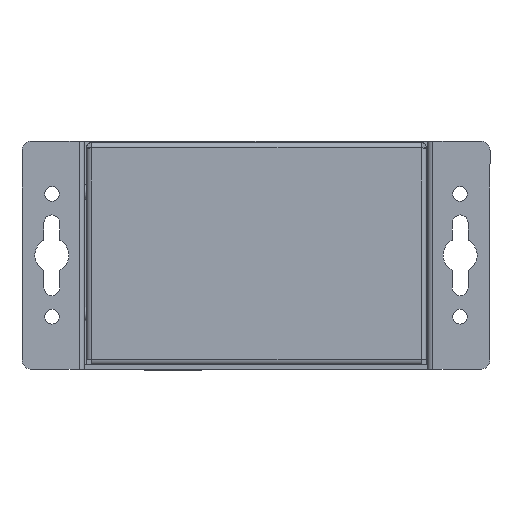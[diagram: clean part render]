
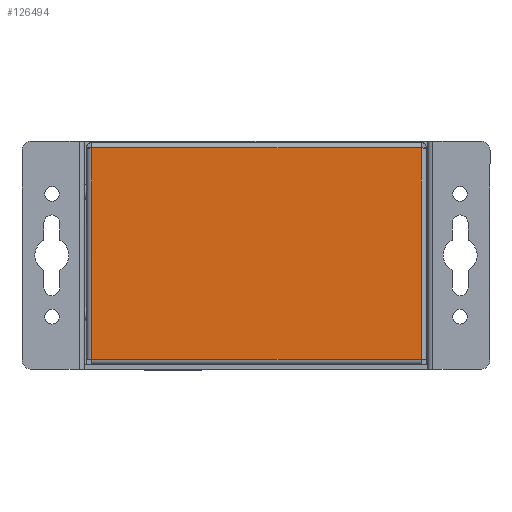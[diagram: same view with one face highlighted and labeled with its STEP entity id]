
A CAD part, front view. The second image highlights one B-rep face of the part: STEP entity #126494.
In plain terms, the highlighted planar face has unit normal (0, -1, 0).
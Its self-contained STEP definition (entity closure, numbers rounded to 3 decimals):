
#4650=PLANE('',#135058);
#10712=FACE_OUTER_BOUND('',#17483,.T.);
#17483=EDGE_LOOP('',(#109692,#109693,#109694,#109695));
#33177=LINE('',#207221,#48519);
#33182=LINE('',#207237,#48524);
#33186=LINE('',#207300,#48528);
#33187=LINE('',#207301,#48529);
#48519=VECTOR('',#161824,10.);
#48524=VECTOR('',#161847,10.);
#48528=VECTOR('',#161863,10.);
#48529=VECTOR('',#161864,10.);
#61598=VERTEX_POINT('',#206896);
#61700=VERTEX_POINT('',#207219);
#61702=VERTEX_POINT('',#207236);
#61705=VERTEX_POINT('',#207299);
#78368=EDGE_CURVE('',#61598,#61700,#33177,.T.);
#78376=EDGE_CURVE('',#61702,#61598,#33182,.T.);
#78384=EDGE_CURVE('',#61700,#61705,#33186,.T.);
#78385=EDGE_CURVE('',#61705,#61702,#33187,.T.);
#109692=ORIENTED_EDGE('',*,*,#78368,.T.);
#109693=ORIENTED_EDGE('',*,*,#78384,.T.);
#109694=ORIENTED_EDGE('',*,*,#78385,.T.);
#109695=ORIENTED_EDGE('',*,*,#78376,.T.);
#126494=ADVANCED_FACE('',(#10712),#4650,.F.);
#135058=AXIS2_PLACEMENT_3D('',#207298,#161861,#161862);
#161824=DIRECTION('',(1.,0.,0.));
#161847=DIRECTION('',(0.,0.,-1.));
#161861=DIRECTION('center_axis',(0.,1.,0.));
#161862=DIRECTION('ref_axis',(0.,0.,1.));
#161863=DIRECTION('',(0.,0.,1.));
#161864=DIRECTION('',(-1.,0.,0.));
#206896=CARTESIAN_POINT('',(-33.9,0.,-21.775));
#207219=CARTESIAN_POINT('',(33.9,0.,-21.775));
#207221=CARTESIAN_POINT('',(-16.95,0.,-21.775));
#207236=CARTESIAN_POINT('',(-33.9,0.,21.775));
#207237=CARTESIAN_POINT('',(-33.9,0.,10.888));
#207298=CARTESIAN_POINT('Origin',(0.,0.,0.));
#207299=CARTESIAN_POINT('',(33.9,0.,21.775));
#207300=CARTESIAN_POINT('',(33.9,0.,-11.438));
#207301=CARTESIAN_POINT('',(17.5,0.,21.775));
